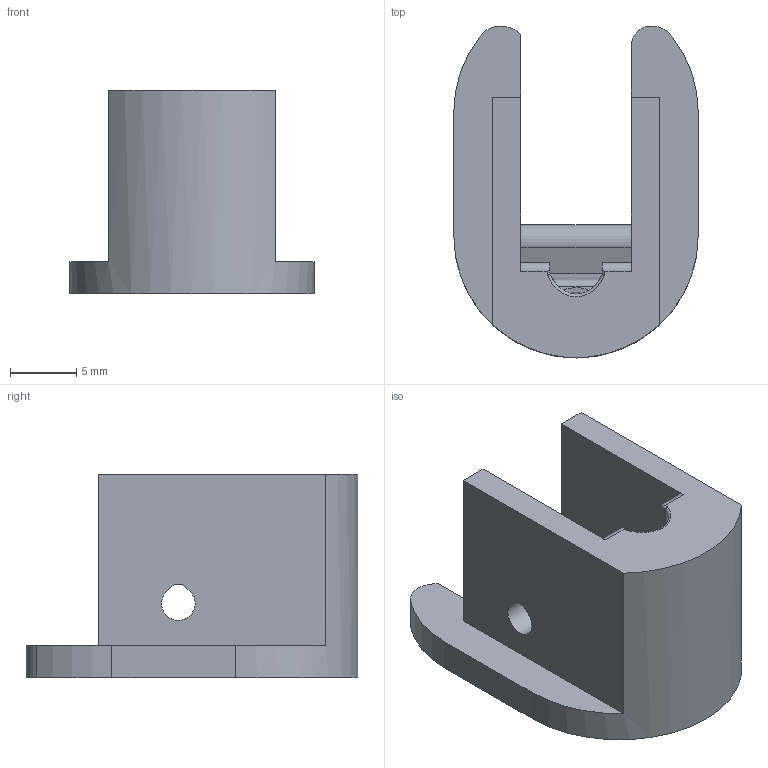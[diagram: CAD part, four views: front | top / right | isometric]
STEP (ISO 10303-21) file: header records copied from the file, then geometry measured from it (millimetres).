
FILE_DESCRIPTION(/* description */ ('STEP AP242','CAx-IF Rec.Pracs.---Representation and Presentation of Product Manufacturing Information (PMI)---4.0---2014-10-13','CAx-IF Rec.Pracs.---3D Tessellated Geometry---0.4---2014-09-14','2;1'),/* implementation_level */ '2;1');
FILE_NAME(/* name */ '61ff4ed09bf8bb22c7c45a34',/* time_stamp */ '2022-02-06T04:30:08+00:00',/* author */ (''),/* organization */ (''),/* preprocessor_version */ 'ST-DEVELOPER v18.101',/* originating_system */ ' ',/* authorisation */ ' ');
FILE_SCHEMA (('AP242_MANAGED_MODEL_BASED_3D_ENGINEERING_MIM_LF { 1 0 10303 442 1 1 4 }'));
Length unit declared in the file: metre
Products named in the file (1): Block
Bounding box: 18.41 x 25.01 x 15.37 mm (x, y, z)
Volume: 2101.9 mm3; surface area: 2067.5 mm2
Topology: 1 solids, 1 shells, 48 faces, 154 edges, 108 vertices
Faces by surface type: plane 24, cylinder 17, bspline 4, torus 3
Entity records: 1951 total; most frequent: CARTESIAN_POINT 594, ORIENTED_EDGE 306, DIRECTION 249, EDGE_CURVE 153, VERTEX_POINT 108, AXIS2_PLACEMENT_3D 87, LINE 75, VECTOR 75
